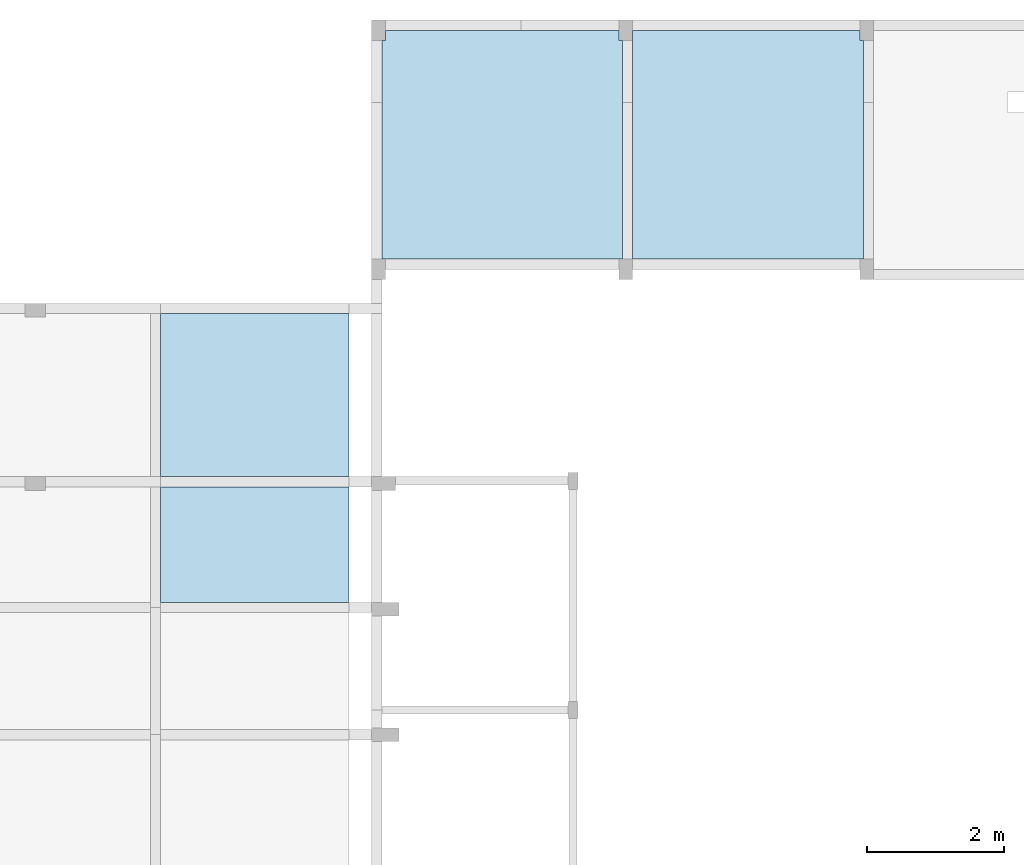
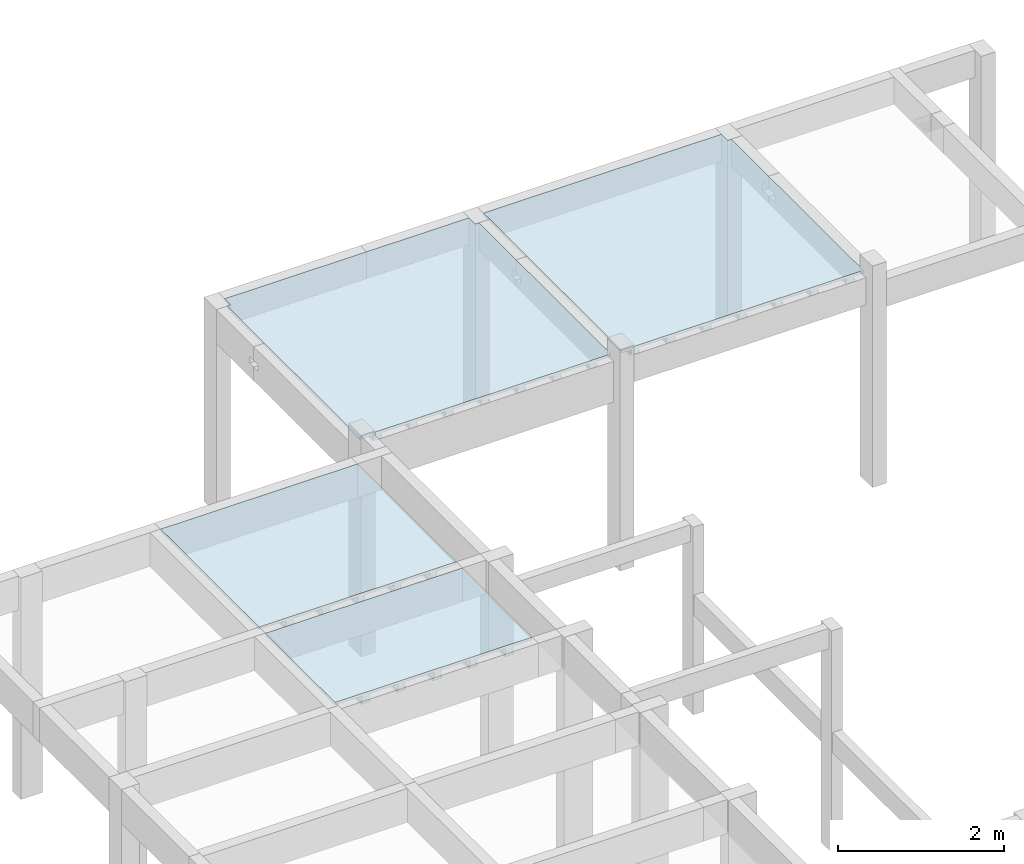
# One storey, part 5 of 6: 4 slabs.
"""IFC4 building model written with IfcOpenShell, lengths in centimetres."""

from ifc_helpers import new_model, si_unit, derived_unit, frame, origin_with_axes, place, context, project, spatial, polyline, outline, extrude, faceted_brep, material, element, save


model = new_model("IFC4")

# Units and contexts
model_context = context("Model", 3, precision=1e-05, world=origin_with_axes(), identifier="Body")
ifc_project = project(units=[si_unit("LENGTHUNIT", "METRE", prefix="CENTI"), si_unit("VOLUMEUNIT", "CUBIC_METRE"), si_unit("AREAUNIT", "SQUARE_METRE"), si_unit("POWERUNIT", "WATT"), si_unit("LUMINOUSFLUXUNIT", "LUMEN"), si_unit("ELECTRICCURRENTUNIT", "AMPERE"), si_unit("PRESSUREUNIT", "PASCAL", prefix="KILO"), si_unit("MASSUNIT", "GRAM", prefix="KILO"), si_unit("PLANEANGLEUNIT", "RADIAN"), derived_unit("VOLUMETRICFLOWRATEUNIT", [(si_unit("LENGTHUNIT", "METRE"), 3), (si_unit("TIMEUNIT", "SECOND"), -1)])], contexts=[model_context])

# Site, building, storey
site_placement = place(None, origin_with_axes())
site = spatial("IfcSite", under=ifc_project, at=site_placement)
building_placement = place(site_placement, frame((0.0, 0.0, -295.0)))
building = spatial("IfcBuilding", under=site, at=building_placement)
placement_1 = place(building_placement, origin_with_axes())
placement_2 = place(placement_1, frame((0.0, 0.0, 101.0), z_axis=(0.0, 0.0, 1.0), x_axis=(1.0, 0.0, 0.0)))
placement_3 = place(placement_2, frame((0.0, 0.0, 204.0), z_axis=(0.0, 0.0, 1.0), x_axis=(1.0, 0.0, 0.0)))
placement_4 = place(placement_3, frame((0.0, 0.0, 292.0), z_axis=(0.0, 0.0, 1.0), x_axis=(1.0, 0.0, 0.0)))
placement_5 = place(placement_4, frame((0.0, 0.0, 302.0), z_axis=(0.0, 0.0, 1.0), x_axis=(1.0, 0.0, 0.0)))
storey_placement = place(placement_5, frame((0.0, 0.0, 326.0), z_axis=(0.0, 0.0, 1.0), x_axis=(1.0, 0.0, 0.0)))
storey = spatial("IfcBuildingStorey", under=building, at=storey_placement, Name="COB CX DAGUA", CompositionType="ELEMENT", Elevation=930.0)

# Slabs
ifc_material = material(Name="Concreto")
slab_1_placement = place(storey_placement, frame((1364.15, -5252.9695, -26.0), z_axis=(0.0, 0.0, 1.0), x_axis=(1.0, 0.0, 0.0)))
element("IfcSlab", 1, at=slab_1_placement, inside=storey, material=ifc_material, Name="L301", PredefinedType="FLOOR", context=model_context, shape_type="SolidModel", body=[
    extrude(outline(polyline([(175.249, -166.719), (175.25, 151.86), (170.25, 151.86), (170.25, 166.72), (-170.249, 166.72), (-170.249, 151.86), (-175.249, 151.859), (-175.25, -166.719), (175.249, -166.719), (175.249, -166.719)])), frame((0.0, -0.0005, -4.0), z_axis=(0.0, 0.0, 1.0), x_axis=(1.0, 0.0, 0.0)), (0.0, 0.0, 1.0), 4.0),
    faceted_brep([(-5.0, -166.7195, -12.0), (-5.0, 166.7195, -12.0), (5.0, 166.7195, -12.0), (5.0, -166.7195, -12.0), (5.0, -166.7195, -4.0), (5.0, 166.7195, -4.0), (-5.0, 166.7195, -4.0), (-5.0, -166.7195, -4.0)], [[[0, 1, 2, 3]], [[4, 5, 6, 7]], [[4, 3, 5]], [[3, 2, 5]], [[5, 2, 6]], [[2, 1, 6]], [[6, 1, 7]], [[1, 0, 7]], [[7, 0, 4]], [[0, 3, 4]]]),
    faceted_brep([(-6.5, -166.7195, -12.0), (-6.5, 166.7195, -12.0), (-5.0, 166.7195, -12.0), (-5.0, -166.7195, -12.0), (-5.0, -166.7195, -9.0), (-5.0, 166.7195, -9.0), (-6.5, 166.7195, -9.0), (-6.5, -166.7195, -9.0)], [[[0, 1, 2, 3]], [[4, 5, 6, 7]], [[4, 3, 5]], [[3, 2, 5]], [[5, 2, 6]], [[2, 1, 6]], [[6, 1, 7]], [[1, 0, 7]], [[7, 0, 4]], [[0, 3, 4]]]),
    faceted_brep([(5.0, -166.7195, -12.0), (5.0, 166.7195, -12.0), (6.5, 166.7195, -12.0), (6.5, -166.7195, -12.0), (6.5, -166.7195, -9.0), (6.5, 166.7195, -9.0), (5.0, 166.7195, -9.0), (5.0, -166.7195, -9.0)], [[[0, 1, 2, 3]], [[4, 5, 6, 7]], [[4, 3, 5]], [[3, 2, 5]], [[5, 2, 6]], [[2, 1, 6]], [[6, 1, 7]], [[1, 0, 7]], [[7, 0, 4]], [[0, 3, 4]]]),
    faceted_brep([(-55.0, -166.7195, -12.0), (-55.0, 166.7195, -12.0), (-45.0, 166.7195, -12.0), (-45.0, -166.7195, -12.0), (-45.0, -166.7195, -4.0), (-45.0, 166.7195, -4.0), (-55.0, 166.7195, -4.0), (-55.0, -166.7195, -4.0)], [[[0, 1, 2, 3]], [[4, 5, 6, 7]], [[4, 3, 5]], [[3, 2, 5]], [[5, 2, 6]], [[2, 1, 6]], [[6, 1, 7]], [[1, 0, 7]], [[7, 0, 4]], [[0, 3, 4]]]),
    faceted_brep([(-56.5, -166.7195, -12.0), (-56.5, 166.7195, -12.0), (-55.0, 166.7195, -12.0), (-55.0, -166.7195, -12.0), (-55.0, -166.7195, -9.0), (-55.0, 166.7195, -9.0), (-56.5, 166.7195, -9.0), (-56.5, -166.7195, -9.0)], [[[0, 1, 2, 3]], [[4, 5, 6, 7]], [[4, 3, 5]], [[3, 2, 5]], [[5, 2, 6]], [[2, 1, 6]], [[6, 1, 7]], [[1, 0, 7]], [[7, 0, 4]], [[0, 3, 4]]]),
    faceted_brep([(-45.0, -166.7195, -12.0), (-45.0, 166.7195, -12.0), (-43.5, 166.7195, -12.0), (-43.5, -166.7195, -12.0), (-43.5, -166.7195, -9.0), (-43.5, 166.7195, -9.0), (-45.0, 166.7195, -9.0), (-45.0, -166.7195, -9.0)], [[[0, 1, 2, 3]], [[4, 5, 6, 7]], [[4, 3, 5]], [[3, 2, 5]], [[5, 2, 6]], [[2, 1, 6]], [[6, 1, 7]], [[1, 0, 7]], [[7, 0, 4]], [[0, 3, 4]]]),
    faceted_brep([(-105.0, -166.7195, -12.0), (-105.0, 166.7195, -12.0), (-95.0, 166.7195, -12.0), (-95.0, -166.7195, -12.0), (-95.0, -166.7195, -4.0), (-95.0, 166.7195, -4.0), (-105.0, 166.7195, -4.0), (-105.0, -166.7195, -4.0)], [[[0, 1, 2, 3]], [[4, 5, 6, 7]], [[4, 3, 5]], [[3, 2, 5]], [[5, 2, 6]], [[2, 1, 6]], [[6, 1, 7]], [[1, 0, 7]], [[7, 0, 4]], [[0, 3, 4]]]),
    faceted_brep([(-106.5, -166.7195, -12.0), (-106.5, 166.7195, -12.0), (-105.0, 166.7195, -12.0), (-105.0, -166.7195, -12.0), (-105.0, -166.7195, -9.0), (-105.0, 166.7195, -9.0), (-106.5, 166.7195, -9.0), (-106.5, -166.7195, -9.0)], [[[0, 1, 2, 3]], [[4, 5, 6, 7]], [[4, 3, 5]], [[3, 2, 5]], [[5, 2, 6]], [[2, 1, 6]], [[6, 1, 7]], [[1, 0, 7]], [[7, 0, 4]], [[0, 3, 4]]]),
    faceted_brep([(-95.0, -166.7195, -12.0), (-95.0, 166.7195, -12.0), (-93.5, 166.7195, -12.0), (-93.5, -166.7195, -12.0), (-93.5, -166.7195, -9.0), (-93.5, 166.7195, -9.0), (-95.0, 166.7195, -9.0), (-95.0, -166.7195, -9.0)], [[[0, 1, 2, 3]], [[4, 5, 6, 7]], [[4, 3, 5]], [[3, 2, 5]], [[5, 2, 6]], [[2, 1, 6]], [[6, 1, 7]], [[1, 0, 7]], [[7, 0, 4]], [[0, 3, 4]]]),
    faceted_brep([(-155.0, -166.7195, -12.0), (-155.0, 166.7195, -12.0), (-145.0, 166.7195, -12.0), (-145.0, -166.7195, -12.0), (-145.0, -166.7195, -4.0), (-145.0, 166.7195, -4.0), (-155.0, 166.7195, -4.0), (-155.0, -166.7195, -4.0)], [[[0, 1, 2, 3]], [[4, 5, 6, 7]], [[4, 3, 5]], [[3, 2, 5]], [[5, 2, 6]], [[2, 1, 6]], [[6, 1, 7]], [[1, 0, 7]], [[7, 0, 4]], [[0, 3, 4]]]),
    faceted_brep([(-156.5, -166.7195, -12.0), (-156.5, 166.7195, -12.0), (-155.0, 166.7195, -12.0), (-155.0, -166.7195, -12.0), (-155.0, -166.7195, -9.0), (-155.0, 166.7195, -9.0), (-156.5, 166.7195, -9.0), (-156.5, -166.7195, -9.0)], [[[0, 1, 2, 3]], [[4, 5, 6, 7]], [[4, 3, 5]], [[3, 2, 5]], [[5, 2, 6]], [[2, 1, 6]], [[6, 1, 7]], [[1, 0, 7]], [[7, 0, 4]], [[0, 3, 4]]]),
    faceted_brep([(-145.0, -166.7195, -12.0), (-145.0, 166.7195, -12.0), (-143.5, 166.7195, -12.0), (-143.5, -166.7195, -12.0), (-143.5, -166.7195, -9.0), (-143.5, 166.7195, -9.0), (-145.0, 166.7195, -9.0), (-145.0, -166.7195, -9.0)], [[[0, 1, 2, 3]], [[4, 5, 6, 7]], [[4, 3, 5]], [[3, 2, 5]], [[5, 2, 6]], [[2, 1, 6]], [[6, 1, 7]], [[1, 0, 7]], [[7, 0, 4]], [[0, 3, 4]]]),
    faceted_brep([(45.0, -166.7195, -12.0), (45.0, 166.7195, -12.0), (55.0, 166.7195, -12.0), (55.0, -166.7195, -12.0), (55.0, -166.7195, -4.0), (55.0, 166.7195, -4.0), (45.0, 166.7195, -4.0), (45.0, -166.7195, -4.0)], [[[0, 1, 2, 3]], [[4, 5, 6, 7]], [[4, 3, 5]], [[3, 2, 5]], [[5, 2, 6]], [[2, 1, 6]], [[6, 1, 7]], [[1, 0, 7]], [[7, 0, 4]], [[0, 3, 4]]]),
    faceted_brep([(43.5, -166.7195, -12.0), (43.5, 166.7195, -12.0), (45.0, 166.7195, -12.0), (45.0, -166.7195, -12.0), (45.0, -166.7195, -9.0), (45.0, 166.7195, -9.0), (43.5, 166.7195, -9.0), (43.5, -166.7195, -9.0)], [[[0, 1, 2, 3]], [[4, 5, 6, 7]], [[4, 3, 5]], [[3, 2, 5]], [[5, 2, 6]], [[2, 1, 6]], [[6, 1, 7]], [[1, 0, 7]], [[7, 0, 4]], [[0, 3, 4]]]),
    faceted_brep([(55.0, -166.7195, -12.0), (55.0, 166.7195, -12.0), (56.5, 166.7195, -12.0), (56.5, -166.7195, -12.0), (56.5, -166.7195, -9.0), (56.5, 166.7195, -9.0), (55.0, 166.7195, -9.0), (55.0, -166.7195, -9.0)], [[[0, 1, 2, 3]], [[4, 5, 6, 7]], [[4, 3, 5]], [[3, 2, 5]], [[5, 2, 6]], [[2, 1, 6]], [[6, 1, 7]], [[1, 0, 7]], [[7, 0, 4]], [[0, 3, 4]]]),
    faceted_brep([(95.0, -166.7195, -12.0), (95.0, 166.7195, -12.0), (105.0, 166.7195, -12.0), (105.0, -166.7195, -12.0), (105.0, -166.7195, -4.0), (105.0, 166.7195, -4.0), (95.0, 166.7195, -4.0), (95.0, -166.7195, -4.0)], [[[0, 1, 2, 3]], [[4, 5, 6, 7]], [[4, 3, 5]], [[3, 2, 5]], [[5, 2, 6]], [[2, 1, 6]], [[6, 1, 7]], [[1, 0, 7]], [[7, 0, 4]], [[0, 3, 4]]]),
    faceted_brep([(93.5, -166.7195, -12.0), (93.5, 166.7195, -12.0), (95.0, 166.7195, -12.0), (95.0, -166.7195, -12.0), (95.0, -166.7195, -9.0), (95.0, 166.7195, -9.0), (93.5, 166.7195, -9.0), (93.5, -166.7195, -9.0)], [[[0, 1, 2, 3]], [[4, 5, 6, 7]], [[4, 3, 5]], [[3, 2, 5]], [[5, 2, 6]], [[2, 1, 6]], [[6, 1, 7]], [[1, 0, 7]], [[7, 0, 4]], [[0, 3, 4]]]),
    faceted_brep([(105.0, -166.7195, -12.0), (105.0, 166.7195, -12.0), (106.5, 166.7195, -12.0), (106.5, -166.7195, -12.0), (106.5, -166.7195, -9.0), (106.5, 166.7195, -9.0), (105.0, 166.7195, -9.0), (105.0, -166.7195, -9.0)], [[[0, 1, 2, 3]], [[4, 5, 6, 7]], [[4, 3, 5]], [[3, 2, 5]], [[5, 2, 6]], [[2, 1, 6]], [[6, 1, 7]], [[1, 0, 7]], [[7, 0, 4]], [[0, 3, 4]]]),
    faceted_brep([(145.0, -166.7195, -12.0), (145.0, 166.7195, -12.0), (155.0, 166.7195, -12.0), (155.0, -166.7195, -12.0), (155.0, -166.7195, -4.0), (155.0, 166.7195, -4.0), (145.0, 166.7195, -4.0), (145.0, -166.7195, -4.0)], [[[0, 1, 2, 3]], [[4, 5, 6, 7]], [[4, 3, 5]], [[3, 2, 5]], [[5, 2, 6]], [[2, 1, 6]], [[6, 1, 7]], [[1, 0, 7]], [[7, 0, 4]], [[0, 3, 4]]]),
    faceted_brep([(143.5, -166.7195, -12.0), (143.5, 166.7195, -12.0), (145.0, 166.7195, -12.0), (145.0, -166.7195, -12.0), (145.0, -166.7195, -9.0), (145.0, 166.7195, -9.0), (143.5, 166.7195, -9.0), (143.5, -166.7195, -9.0)], [[[0, 1, 2, 3]], [[4, 5, 6, 7]], [[4, 3, 5]], [[3, 2, 5]], [[5, 2, 6]], [[2, 1, 6]], [[6, 1, 7]], [[1, 0, 7]], [[7, 0, 4]], [[0, 3, 4]]]),
    faceted_brep([(155.0, -166.7195, -12.0), (155.0, 166.7195, -12.0), (156.5, 166.7195, -12.0), (156.5, -166.7195, -12.0), (156.5, -166.7195, -9.0), (156.5, 166.7195, -9.0), (155.0, 166.7195, -9.0), (155.0, -166.7195, -9.0)], [[[0, 1, 2, 3]], [[4, 5, 6, 7]], [[4, 3, 5]], [[3, 2, 5]], [[5, 2, 6]], [[2, 1, 6]], [[6, 1, 7]], [[1, 0, 7]], [[7, 0, 4]], [[0, 3, 4]]]),
])
slab_2_placement = place(storey_placement, frame((1722.625, -5252.9695, -26.0), z_axis=(0.0, 0.0, 1.0), x_axis=(1.0, 0.0, 0.0)))
element("IfcSlab", 2, at=slab_2_placement, inside=storey, material=ifc_material, Name="L302", PredefinedType="FLOOR", context=model_context, shape_type="SolidModel", body=[
    extrude(outline(polyline([(168.224, -166.719), (168.225, 151.86), (163.224, 151.86), (163.225, 166.719), (-168.225, 166.72), (-168.224, -166.719), (168.224, -166.719), (168.224, -166.719)])), frame((0.0, -0.0005, -4.0), z_axis=(0.0, 0.0, 1.0), x_axis=(1.0, 0.0, 0.0)), (0.0, 0.0, 1.0), 4.0),
    faceted_brep([(-5.0, -166.7195, -12.0), (-5.0, 166.719, -12.0), (5.0, 166.719, -12.0), (5.0, -166.7195, -12.0), (5.0, -166.7195, -4.0), (5.0, 166.719, -4.0), (-5.0, 166.719, -4.0), (-5.0, -166.7195, -4.0)], [[[0, 1, 2, 3]], [[4, 5, 6, 7]], [[4, 3, 5]], [[3, 2, 5]], [[5, 2, 6]], [[2, 1, 6]], [[6, 1, 7]], [[1, 0, 7]], [[7, 0, 4]], [[0, 3, 4]]]),
    faceted_brep([(-6.5, -166.7195, -12.0), (-6.5, 166.719, -12.0), (-5.0, 166.719, -12.0), (-5.0, -166.7195, -12.0), (-5.0, -166.7195, -9.0), (-5.0, 166.719, -9.0), (-6.5, 166.719, -9.0), (-6.5, -166.7195, -9.0)], [[[0, 1, 2, 3]], [[4, 5, 6, 7]], [[4, 3, 5]], [[3, 2, 5]], [[5, 2, 6]], [[2, 1, 6]], [[6, 1, 7]], [[1, 0, 7]], [[7, 0, 4]], [[0, 3, 4]]]),
    faceted_brep([(5.0, -166.7195, -12.0), (5.0, 166.719, -12.0), (6.5, 166.719, -12.0), (6.5, -166.7195, -12.0), (6.5, -166.7195, -9.0), (6.5, 166.719, -9.0), (5.0, 166.719, -9.0), (5.0, -166.7195, -9.0)], [[[0, 1, 2, 3]], [[4, 5, 6, 7]], [[4, 3, 5]], [[3, 2, 5]], [[5, 2, 6]], [[2, 1, 6]], [[6, 1, 7]], [[1, 0, 7]], [[7, 0, 4]], [[0, 3, 4]]]),
    faceted_brep([(-55.0, -166.7195, -12.0), (-55.0, 166.719, -12.0), (-45.0, 166.719, -12.0), (-45.0, -166.7195, -12.0), (-45.0, -166.7195, -4.0), (-45.0, 166.719, -4.0), (-55.0, 166.719, -4.0), (-55.0, -166.7195, -4.0)], [[[0, 1, 2, 3]], [[4, 5, 6, 7]], [[4, 3, 5]], [[3, 2, 5]], [[5, 2, 6]], [[2, 1, 6]], [[6, 1, 7]], [[1, 0, 7]], [[7, 0, 4]], [[0, 3, 4]]]),
    faceted_brep([(-56.5, -166.7195, -12.0), (-56.5, 166.719, -12.0), (-55.0, 166.719, -12.0), (-55.0, -166.7195, -12.0), (-55.0, -166.7195, -9.0), (-55.0, 166.719, -9.0), (-56.5, 166.719, -9.0), (-56.5, -166.7195, -9.0)], [[[0, 1, 2, 3]], [[4, 5, 6, 7]], [[4, 3, 5]], [[3, 2, 5]], [[5, 2, 6]], [[2, 1, 6]], [[6, 1, 7]], [[1, 0, 7]], [[7, 0, 4]], [[0, 3, 4]]]),
    faceted_brep([(-45.0, -166.7195, -12.0), (-45.0, 166.719, -12.0), (-43.5, 166.719, -12.0), (-43.5, -166.7195, -12.0), (-43.5, -166.7195, -9.0), (-43.5, 166.719, -9.0), (-45.0, 166.719, -9.0), (-45.0, -166.7195, -9.0)], [[[0, 1, 2, 3]], [[4, 5, 6, 7]], [[4, 3, 5]], [[3, 2, 5]], [[5, 2, 6]], [[2, 1, 6]], [[6, 1, 7]], [[1, 0, 7]], [[7, 0, 4]], [[0, 3, 4]]]),
    faceted_brep([(-105.0, -166.7195, -12.0), (-105.0, 166.719, -12.0), (-95.0, 166.719, -12.0), (-95.0, -166.7195, -12.0), (-95.0, -166.7195, -4.0), (-95.0, 166.719, -4.0), (-105.0, 166.719, -4.0), (-105.0, -166.7195, -4.0)], [[[0, 1, 2, 3]], [[4, 5, 6, 7]], [[4, 3, 5]], [[3, 2, 5]], [[5, 2, 6]], [[2, 1, 6]], [[6, 1, 7]], [[1, 0, 7]], [[7, 0, 4]], [[0, 3, 4]]]),
    faceted_brep([(-106.5, -166.7195, -12.0), (-106.5, 166.719, -12.0), (-105.0, 166.719, -12.0), (-105.0, -166.7195, -12.0), (-105.0, -166.7195, -9.0), (-105.0, 166.719, -9.0), (-106.5, 166.719, -9.0), (-106.5, -166.7195, -9.0)], [[[0, 1, 2, 3]], [[4, 5, 6, 7]], [[4, 3, 5]], [[3, 2, 5]], [[5, 2, 6]], [[2, 1, 6]], [[6, 1, 7]], [[1, 0, 7]], [[7, 0, 4]], [[0, 3, 4]]]),
    faceted_brep([(-95.0, -166.7195, -12.0), (-95.0, 166.719, -12.0), (-93.5, 166.719, -12.0), (-93.5, -166.7195, -12.0), (-93.5, -166.7195, -9.0), (-93.5, 166.719, -9.0), (-95.0, 166.719, -9.0), (-95.0, -166.7195, -9.0)], [[[0, 1, 2, 3]], [[4, 5, 6, 7]], [[4, 3, 5]], [[3, 2, 5]], [[5, 2, 6]], [[2, 1, 6]], [[6, 1, 7]], [[1, 0, 7]], [[7, 0, 4]], [[0, 3, 4]]]),
    faceted_brep([(-155.0, -166.7195, -12.0), (-155.0, 166.719, -12.0), (-145.0, 166.719, -12.0), (-145.0, -166.7195, -12.0), (-145.0, -166.7195, -4.0), (-145.0, 166.719, -4.0), (-155.0, 166.719, -4.0), (-155.0, -166.7195, -4.0)], [[[0, 1, 2, 3]], [[4, 5, 6, 7]], [[4, 3, 5]], [[3, 2, 5]], [[5, 2, 6]], [[2, 1, 6]], [[6, 1, 7]], [[1, 0, 7]], [[7, 0, 4]], [[0, 3, 4]]]),
    faceted_brep([(-156.5, -166.7195, -12.0), (-156.5, 166.719, -12.0), (-155.0, 166.719, -12.0), (-155.0, -166.7195, -12.0), (-155.0, -166.7195, -9.0), (-155.0, 166.719, -9.0), (-156.5, 166.719, -9.0), (-156.5, -166.7195, -9.0)], [[[0, 1, 2, 3]], [[4, 5, 6, 7]], [[4, 3, 5]], [[3, 2, 5]], [[5, 2, 6]], [[2, 1, 6]], [[6, 1, 7]], [[1, 0, 7]], [[7, 0, 4]], [[0, 3, 4]]]),
    faceted_brep([(-145.0, -166.7195, -12.0), (-145.0, 166.719, -12.0), (-143.5, 166.719, -12.0), (-143.5, -166.7195, -12.0), (-143.5, -166.7195, -9.0), (-143.5, 166.719, -9.0), (-145.0, 166.719, -9.0), (-145.0, -166.7195, -9.0)], [[[0, 1, 2, 3]], [[4, 5, 6, 7]], [[4, 3, 5]], [[3, 2, 5]], [[5, 2, 6]], [[2, 1, 6]], [[6, 1, 7]], [[1, 0, 7]], [[7, 0, 4]], [[0, 3, 4]]]),
    faceted_brep([(45.0, -166.7195, -12.0), (45.0, 166.719, -12.0), (55.0, 166.719, -12.0), (55.0, -166.7195, -12.0), (55.0, -166.7195, -4.0), (55.0, 166.719, -4.0), (45.0, 166.719, -4.0), (45.0, -166.7195, -4.0)], [[[0, 1, 2, 3]], [[4, 5, 6, 7]], [[4, 3, 5]], [[3, 2, 5]], [[5, 2, 6]], [[2, 1, 6]], [[6, 1, 7]], [[1, 0, 7]], [[7, 0, 4]], [[0, 3, 4]]]),
    faceted_brep([(43.5, -166.7195, -12.0), (43.5, 166.719, -12.0), (45.0, 166.719, -12.0), (45.0, -166.7195, -12.0), (45.0, -166.7195, -9.0), (45.0, 166.719, -9.0), (43.5, 166.719, -9.0), (43.5, -166.7195, -9.0)], [[[0, 1, 2, 3]], [[4, 5, 6, 7]], [[4, 3, 5]], [[3, 2, 5]], [[5, 2, 6]], [[2, 1, 6]], [[6, 1, 7]], [[1, 0, 7]], [[7, 0, 4]], [[0, 3, 4]]]),
    faceted_brep([(55.0, -166.7195, -12.0), (55.0, 166.719, -12.0), (56.5, 166.719, -12.0), (56.5, -166.7195, -12.0), (56.5, -166.7195, -9.0), (56.5, 166.719, -9.0), (55.0, 166.719, -9.0), (55.0, -166.7195, -9.0)], [[[0, 1, 2, 3]], [[4, 5, 6, 7]], [[4, 3, 5]], [[3, 2, 5]], [[5, 2, 6]], [[2, 1, 6]], [[6, 1, 7]], [[1, 0, 7]], [[7, 0, 4]], [[0, 3, 4]]]),
    faceted_brep([(95.0, -166.7195, -12.0), (95.0, 166.719, -12.0), (105.0, 166.719, -12.0), (105.0, -166.7195, -12.0), (105.0, -166.7195, -4.0), (105.0, 166.719, -4.0), (95.0, 166.719, -4.0), (95.0, -166.7195, -4.0)], [[[0, 1, 2, 3]], [[4, 5, 6, 7]], [[4, 3, 5]], [[3, 2, 5]], [[5, 2, 6]], [[2, 1, 6]], [[6, 1, 7]], [[1, 0, 7]], [[7, 0, 4]], [[0, 3, 4]]]),
    faceted_brep([(93.5, -166.7195, -12.0), (93.5, 166.719, -12.0), (95.0, 166.719, -12.0), (95.0, -166.7195, -12.0), (95.0, -166.7195, -9.0), (95.0, 166.719, -9.0), (93.5, 166.719, -9.0), (93.5, -166.7195, -9.0)], [[[0, 1, 2, 3]], [[4, 5, 6, 7]], [[4, 3, 5]], [[3, 2, 5]], [[5, 2, 6]], [[2, 1, 6]], [[6, 1, 7]], [[1, 0, 7]], [[7, 0, 4]], [[0, 3, 4]]]),
    faceted_brep([(105.0, -166.7195, -12.0), (105.0, 166.719, -12.0), (106.5, 166.719, -12.0), (106.5, -166.7195, -12.0), (106.5, -166.7195, -9.0), (106.5, 166.719, -9.0), (105.0, 166.719, -9.0), (105.0, -166.7195, -9.0)], [[[0, 1, 2, 3]], [[4, 5, 6, 7]], [[4, 3, 5]], [[3, 2, 5]], [[5, 2, 6]], [[2, 1, 6]], [[6, 1, 7]], [[1, 0, 7]], [[7, 0, 4]], [[0, 3, 4]]]),
    faceted_brep([(145.0, -166.7195, -12.0), (145.0, 166.719, -12.0), (155.0, 166.719, -12.0), (155.0, -166.7195, -12.0), (155.0, -166.7195, -4.0), (155.0, 166.719, -4.0), (145.0, 166.719, -4.0), (145.0, -166.7195, -4.0)], [[[0, 1, 2, 3]], [[4, 5, 6, 7]], [[4, 3, 5]], [[3, 2, 5]], [[5, 2, 6]], [[2, 1, 6]], [[6, 1, 7]], [[1, 0, 7]], [[7, 0, 4]], [[0, 3, 4]]]),
    faceted_brep([(143.5, -166.7195, -12.0), (143.5, 166.719, -12.0), (145.0, 166.719, -12.0), (145.0, -166.7195, -12.0), (145.0, -166.7195, -9.0), (145.0, 166.719, -9.0), (143.5, 166.719, -9.0), (143.5, -166.7195, -9.0)], [[[0, 1, 2, 3]], [[4, 5, 6, 7]], [[4, 3, 5]], [[3, 2, 5]], [[5, 2, 6]], [[2, 1, 6]], [[6, 1, 7]], [[1, 0, 7]], [[7, 0, 4]], [[0, 3, 4]]]),
    faceted_brep([(155.0, -166.7195, -12.0), (155.0, 166.719, -12.0), (156.5, 166.719, -12.0), (156.5, -166.7195, -12.0), (156.5, -166.7195, -9.0), (156.5, 166.719, -9.0), (155.0, 166.719, -9.0), (155.0, -166.7195, -9.0)], [[[0, 1, 2, 3]], [[4, 5, 6, 7]], [[4, 3, 5]], [[3, 2, 5]], [[5, 2, 6]], [[2, 1, 6]], [[6, 1, 7]], [[1, 0, 7]], [[7, 0, 4]], [[0, 3, 4]]]),
])
slab_3_placement = place(storey_placement, frame((1003.65, -5618.0, 0.0), z_axis=(0.0, 0.0, 1.0), x_axis=(1.0, 0.0, 0.0)))
element("IfcSlab", 3, at=slab_3_placement, inside=storey, material=ifc_material, Name="L306", PredefinedType="FLOOR", context=model_context, shape_type="SolidModel", body=[
    extrude(outline(polyline([(137.25, 118.84), (-137.249, 118.84), (-137.25, -118.84), (137.25, -118.84), (137.25, 118.84), (137.25, 118.84)])), frame((0.0, 0.0, -4.0), z_axis=(0.0, 0.0, 1.0), x_axis=(1.0, 0.0, 0.0)), (0.0, 0.0, 1.0), 4.0),
    faceted_brep([(-49.585, -118.84, -16.0), (-49.585, 118.84, -16.0), (-39.585, 118.84, -16.0), (-39.585, -118.84, -16.0), (-39.585, -118.84, -4.0), (-39.585, 118.84, -4.0), (-49.585, 118.84, -4.0), (-49.585, -118.84, -4.0)], [[[0, 1, 2, 3]], [[4, 5, 6, 7]], [[4, 3, 5]], [[3, 2, 5]], [[5, 2, 6]], [[2, 1, 6]], [[6, 1, 7]], [[1, 0, 7]], [[7, 0, 4]], [[0, 3, 4]]]),
    faceted_brep([(-51.085, -118.84, -16.0), (-51.085, 118.84, -16.0), (-49.585, 118.84, -16.0), (-49.585, -118.84, -16.0), (-49.585, -118.84, -13.0), (-49.585, 118.84, -13.0), (-51.085, 118.84, -13.0), (-51.085, -118.84, -13.0)], [[[0, 1, 2, 3]], [[4, 5, 6, 7]], [[4, 3, 5]], [[3, 2, 5]], [[5, 2, 6]], [[2, 1, 6]], [[6, 1, 7]], [[1, 0, 7]], [[7, 0, 4]], [[0, 3, 4]]]),
    faceted_brep([(-39.585, -118.84, -16.0), (-39.585, 118.84, -16.0), (-38.085, 118.84, -16.0), (-38.085, -118.84, -16.0), (-38.085, -118.84, -13.0), (-38.085, 118.84, -13.0), (-39.585, 118.84, -13.0), (-39.585, -118.84, -13.0)], [[[0, 1, 2, 3]], [[4, 5, 6, 7]], [[4, 3, 5]], [[3, 2, 5]], [[5, 2, 6]], [[2, 1, 6]], [[6, 1, 7]], [[1, 0, 7]], [[7, 0, 4]], [[0, 3, 4]]]),
    faceted_brep([(-99.585, -118.84, -16.0), (-99.585, 118.84, -16.0), (-89.585, 118.84, -16.0), (-89.585, -118.84, -16.0), (-89.585, -118.84, -4.0), (-89.585, 118.84, -4.0), (-99.585, 118.84, -4.0), (-99.585, -118.84, -4.0)], [[[0, 1, 2, 3]], [[4, 5, 6, 7]], [[4, 3, 5]], [[3, 2, 5]], [[5, 2, 6]], [[2, 1, 6]], [[6, 1, 7]], [[1, 0, 7]], [[7, 0, 4]], [[0, 3, 4]]]),
    faceted_brep([(-101.085, -118.84, -16.0), (-101.085, 118.84, -16.0), (-99.585, 118.84, -16.0), (-99.585, -118.84, -16.0), (-99.585, -118.84, -13.0), (-99.585, 118.84, -13.0), (-101.085, 118.84, -13.0), (-101.085, -118.84, -13.0)], [[[0, 1, 2, 3]], [[4, 5, 6, 7]], [[4, 3, 5]], [[3, 2, 5]], [[5, 2, 6]], [[2, 1, 6]], [[6, 1, 7]], [[1, 0, 7]], [[7, 0, 4]], [[0, 3, 4]]]),
    faceted_brep([(-89.585, -118.84, -16.0), (-89.585, 118.84, -16.0), (-88.085, 118.84, -16.0), (-88.085, -118.84, -16.0), (-88.085, -118.84, -13.0), (-88.085, 118.84, -13.0), (-89.585, 118.84, -13.0), (-89.585, -118.84, -13.0)], [[[0, 1, 2, 3]], [[4, 5, 6, 7]], [[4, 3, 5]], [[3, 2, 5]], [[5, 2, 6]], [[2, 1, 6]], [[6, 1, 7]], [[1, 0, 7]], [[7, 0, 4]], [[0, 3, 4]]]),
    faceted_brep([(0.415, -118.84, -16.0), (0.415, 118.84, -16.0), (10.415, 118.84, -16.0), (10.415, -118.84, -16.0), (10.415, -118.84, -4.0), (10.415, 118.84, -4.0), (0.415, 118.84, -4.0), (0.415, -118.84, -4.0)], [[[0, 1, 2, 3]], [[4, 5, 6, 7]], [[4, 3, 5]], [[3, 2, 5]], [[5, 2, 6]], [[2, 1, 6]], [[6, 1, 7]], [[1, 0, 7]], [[7, 0, 4]], [[0, 3, 4]]]),
    faceted_brep([(-1.085, -118.84, -16.0), (-1.085, 118.84, -16.0), (0.415, 118.84, -16.0), (0.415, -118.84, -16.0), (0.415, -118.84, -13.0), (0.415, 118.84, -13.0), (-1.085, 118.84, -13.0), (-1.085, -118.84, -13.0)], [[[0, 1, 2, 3]], [[4, 5, 6, 7]], [[4, 3, 5]], [[3, 2, 5]], [[5, 2, 6]], [[2, 1, 6]], [[6, 1, 7]], [[1, 0, 7]], [[7, 0, 4]], [[0, 3, 4]]]),
    faceted_brep([(10.415, -118.84, -16.0), (10.415, 118.84, -16.0), (11.915, 118.84, -16.0), (11.915, -118.84, -16.0), (11.915, -118.84, -13.0), (11.915, 118.84, -13.0), (10.415, 118.84, -13.0), (10.415, -118.84, -13.0)], [[[0, 1, 2, 3]], [[4, 5, 6, 7]], [[4, 3, 5]], [[3, 2, 5]], [[5, 2, 6]], [[2, 1, 6]], [[6, 1, 7]], [[1, 0, 7]], [[7, 0, 4]], [[0, 3, 4]]]),
    faceted_brep([(50.415, -118.84, -16.0), (50.415, 118.84, -16.0), (60.415, 118.84, -16.0), (60.415, -118.84, -16.0), (60.415, -118.84, -4.0), (60.415, 118.84, -4.0), (50.415, 118.84, -4.0), (50.415, -118.84, -4.0)], [[[0, 1, 2, 3]], [[4, 5, 6, 7]], [[4, 3, 5]], [[3, 2, 5]], [[5, 2, 6]], [[2, 1, 6]], [[6, 1, 7]], [[1, 0, 7]], [[7, 0, 4]], [[0, 3, 4]]]),
    faceted_brep([(48.915, -118.84, -16.0), (48.915, 118.84, -16.0), (50.415, 118.84, -16.0), (50.415, -118.84, -16.0), (50.415, -118.84, -13.0), (50.415, 118.84, -13.0), (48.915, 118.84, -13.0), (48.915, -118.84, -13.0)], [[[0, 1, 2, 3]], [[4, 5, 6, 7]], [[4, 3, 5]], [[3, 2, 5]], [[5, 2, 6]], [[2, 1, 6]], [[6, 1, 7]], [[1, 0, 7]], [[7, 0, 4]], [[0, 3, 4]]]),
    faceted_brep([(60.415, -118.84, -16.0), (60.415, 118.84, -16.0), (61.915, 118.84, -16.0), (61.915, -118.84, -16.0), (61.915, -118.84, -13.0), (61.915, 118.84, -13.0), (60.415, 118.84, -13.0), (60.415, -118.84, -13.0)], [[[0, 1, 2, 3]], [[4, 5, 6, 7]], [[4, 3, 5]], [[3, 2, 5]], [[5, 2, 6]], [[2, 1, 6]], [[6, 1, 7]], [[1, 0, 7]], [[7, 0, 4]], [[0, 3, 4]]]),
    faceted_brep([(100.415, -118.84, -16.0), (100.415, 118.84, -16.0), (110.415, 118.84, -16.0), (110.415, -118.84, -16.0), (110.415, -118.84, -4.0), (110.415, 118.84, -4.0), (100.415, 118.84, -4.0), (100.415, -118.84, -4.0)], [[[0, 1, 2, 3]], [[4, 5, 6, 7]], [[4, 3, 5]], [[3, 2, 5]], [[5, 2, 6]], [[2, 1, 6]], [[6, 1, 7]], [[1, 0, 7]], [[7, 0, 4]], [[0, 3, 4]]]),
    faceted_brep([(98.915, -118.84, -16.0), (98.915, 118.84, -16.0), (100.415, 118.84, -16.0), (100.415, -118.84, -16.0), (100.415, -118.84, -13.0), (100.415, 118.84, -13.0), (98.915, 118.84, -13.0), (98.915, -118.84, -13.0)], [[[0, 1, 2, 3]], [[4, 5, 6, 7]], [[4, 3, 5]], [[3, 2, 5]], [[5, 2, 6]], [[2, 1, 6]], [[6, 1, 7]], [[1, 0, 7]], [[7, 0, 4]], [[0, 3, 4]]]),
    faceted_brep([(110.415, -118.84, -16.0), (110.415, 118.84, -16.0), (111.915, 118.84, -16.0), (111.915, -118.84, -16.0), (111.915, -118.84, -13.0), (111.915, 118.84, -13.0), (110.415, 118.84, -13.0), (110.415, -118.84, -13.0)], [[[0, 1, 2, 3]], [[4, 5, 6, 7]], [[4, 3, 5]], [[3, 2, 5]], [[5, 2, 6]], [[2, 1, 6]], [[6, 1, 7]], [[1, 0, 7]], [[7, 0, 4]], [[0, 3, 4]]]),
])
slab_4_placement = place(storey_placement, frame((1003.65, -5835.8455, 0.0), z_axis=(0.0, 0.0, 1.0), x_axis=(1.0, 0.0, 0.0)))
element("IfcSlab", 4, at=slab_4_placement, inside=storey, material=ifc_material, Name="L308", PredefinedType="FLOOR", context=model_context, shape_type="SolidModel", body=[
    extrude(outline(polyline([(137.25, 84.004), (-137.25, 84.004), (-137.249, -84.005), (137.25, -84.005), (137.25, 84.004), (137.25, 84.004)])), frame((0.0, 0.0005, -4.0), z_axis=(0.0, 0.0, 1.0), x_axis=(1.0, 0.0, 0.0)), (0.0, 0.0, 1.0), 4.0),
    faceted_brep([(-49.585, -84.0045, -16.0), (-49.585, 84.0045, -16.0), (-39.585, 84.0045, -16.0), (-39.585, -84.0045, -16.0), (-39.585, -84.0045, -4.0), (-39.585, 84.0045, -4.0), (-49.585, 84.0045, -4.0), (-49.585, -84.0045, -4.0)], [[[0, 1, 2, 3]], [[4, 5, 6, 7]], [[4, 3, 5]], [[3, 2, 5]], [[5, 2, 6]], [[2, 1, 6]], [[6, 1, 7]], [[1, 0, 7]], [[7, 0, 4]], [[0, 3, 4]]]),
    faceted_brep([(-51.085, -84.0045, -16.0), (-51.085, 84.0045, -16.0), (-49.585, 84.0045, -16.0), (-49.585, -84.0045, -16.0), (-49.585, -84.0045, -13.0), (-49.585, 84.0045, -13.0), (-51.085, 84.0045, -13.0), (-51.085, -84.0045, -13.0)], [[[0, 1, 2, 3]], [[4, 5, 6, 7]], [[4, 3, 5]], [[3, 2, 5]], [[5, 2, 6]], [[2, 1, 6]], [[6, 1, 7]], [[1, 0, 7]], [[7, 0, 4]], [[0, 3, 4]]]),
    faceted_brep([(-39.585, -84.0045, -16.0), (-39.585, 84.0045, -16.0), (-38.085, 84.0045, -16.0), (-38.085, -84.0045, -16.0), (-38.085, -84.0045, -13.0), (-38.085, 84.0045, -13.0), (-39.585, 84.0045, -13.0), (-39.585, -84.0045, -13.0)], [[[0, 1, 2, 3]], [[4, 5, 6, 7]], [[4, 3, 5]], [[3, 2, 5]], [[5, 2, 6]], [[2, 1, 6]], [[6, 1, 7]], [[1, 0, 7]], [[7, 0, 4]], [[0, 3, 4]]]),
    faceted_brep([(-99.585, -84.0045, -16.0), (-99.585, 84.0045, -16.0), (-89.585, 84.0045, -16.0), (-89.585, -84.0045, -16.0), (-89.585, -84.0045, -4.0), (-89.585, 84.0045, -4.0), (-99.585, 84.0045, -4.0), (-99.585, -84.0045, -4.0)], [[[0, 1, 2, 3]], [[4, 5, 6, 7]], [[4, 3, 5]], [[3, 2, 5]], [[5, 2, 6]], [[2, 1, 6]], [[6, 1, 7]], [[1, 0, 7]], [[7, 0, 4]], [[0, 3, 4]]]),
    faceted_brep([(-101.085, -84.0045, -16.0), (-101.085, 84.0045, -16.0), (-99.585, 84.0045, -16.0), (-99.585, -84.0045, -16.0), (-99.585, -84.0045, -13.0), (-99.585, 84.0045, -13.0), (-101.085, 84.0045, -13.0), (-101.085, -84.0045, -13.0)], [[[0, 1, 2, 3]], [[4, 5, 6, 7]], [[4, 3, 5]], [[3, 2, 5]], [[5, 2, 6]], [[2, 1, 6]], [[6, 1, 7]], [[1, 0, 7]], [[7, 0, 4]], [[0, 3, 4]]]),
    faceted_brep([(-89.585, -84.0045, -16.0), (-89.585, 84.0045, -16.0), (-88.085, 84.0045, -16.0), (-88.085, -84.0045, -16.0), (-88.085, -84.0045, -13.0), (-88.085, 84.0045, -13.0), (-89.585, 84.0045, -13.0), (-89.585, -84.0045, -13.0)], [[[0, 1, 2, 3]], [[4, 5, 6, 7]], [[4, 3, 5]], [[3, 2, 5]], [[5, 2, 6]], [[2, 1, 6]], [[6, 1, 7]], [[1, 0, 7]], [[7, 0, 4]], [[0, 3, 4]]]),
    faceted_brep([(0.415, -84.0045, -16.0), (0.415, 84.0045, -16.0), (10.415, 84.0045, -16.0), (10.415, -84.0045, -16.0), (10.415, -84.0045, -4.0), (10.415, 84.0045, -4.0), (0.415, 84.0045, -4.0), (0.415, -84.0045, -4.0)], [[[0, 1, 2, 3]], [[4, 5, 6, 7]], [[4, 3, 5]], [[3, 2, 5]], [[5, 2, 6]], [[2, 1, 6]], [[6, 1, 7]], [[1, 0, 7]], [[7, 0, 4]], [[0, 3, 4]]]),
    faceted_brep([(-1.085, -84.0045, -16.0), (-1.085, 84.0045, -16.0), (0.415, 84.0045, -16.0), (0.415, -84.0045, -16.0), (0.415, -84.0045, -13.0), (0.415, 84.0045, -13.0), (-1.085, 84.0045, -13.0), (-1.085, -84.0045, -13.0)], [[[0, 1, 2, 3]], [[4, 5, 6, 7]], [[4, 3, 5]], [[3, 2, 5]], [[5, 2, 6]], [[2, 1, 6]], [[6, 1, 7]], [[1, 0, 7]], [[7, 0, 4]], [[0, 3, 4]]]),
    faceted_brep([(10.415, -84.0045, -16.0), (10.415, 84.0045, -16.0), (11.915, 84.0045, -16.0), (11.915, -84.0045, -16.0), (11.915, -84.0045, -13.0), (11.915, 84.0045, -13.0), (10.415, 84.0045, -13.0), (10.415, -84.0045, -13.0)], [[[0, 1, 2, 3]], [[4, 5, 6, 7]], [[4, 3, 5]], [[3, 2, 5]], [[5, 2, 6]], [[2, 1, 6]], [[6, 1, 7]], [[1, 0, 7]], [[7, 0, 4]], [[0, 3, 4]]]),
    faceted_brep([(50.415, -84.0045, -16.0), (50.415, 84.0045, -16.0), (60.415, 84.0045, -16.0), (60.415, -84.0045, -16.0), (60.415, -84.0045, -4.0), (60.415, 84.0045, -4.0), (50.415, 84.0045, -4.0), (50.415, -84.0045, -4.0)], [[[0, 1, 2, 3]], [[4, 5, 6, 7]], [[4, 3, 5]], [[3, 2, 5]], [[5, 2, 6]], [[2, 1, 6]], [[6, 1, 7]], [[1, 0, 7]], [[7, 0, 4]], [[0, 3, 4]]]),
    faceted_brep([(48.915, -84.0045, -16.0), (48.915, 84.0045, -16.0), (50.415, 84.0045, -16.0), (50.415, -84.0045, -16.0), (50.415, -84.0045, -13.0), (50.415, 84.0045, -13.0), (48.915, 84.0045, -13.0), (48.915, -84.0045, -13.0)], [[[0, 1, 2, 3]], [[4, 5, 6, 7]], [[4, 3, 5]], [[3, 2, 5]], [[5, 2, 6]], [[2, 1, 6]], [[6, 1, 7]], [[1, 0, 7]], [[7, 0, 4]], [[0, 3, 4]]]),
    faceted_brep([(60.415, -84.0045, -16.0), (60.415, 84.0045, -16.0), (61.915, 84.0045, -16.0), (61.915, -84.0045, -16.0), (61.915, -84.0045, -13.0), (61.915, 84.0045, -13.0), (60.415, 84.0045, -13.0), (60.415, -84.0045, -13.0)], [[[0, 1, 2, 3]], [[4, 5, 6, 7]], [[4, 3, 5]], [[3, 2, 5]], [[5, 2, 6]], [[2, 1, 6]], [[6, 1, 7]], [[1, 0, 7]], [[7, 0, 4]], [[0, 3, 4]]]),
    faceted_brep([(100.415, -84.0045, -16.0), (100.415, 84.0045, -16.0), (110.415, 84.0045, -16.0), (110.415, -84.0045, -16.0), (110.415, -84.0045, -4.0), (110.415, 84.0045, -4.0), (100.415, 84.0045, -4.0), (100.415, -84.0045, -4.0)], [[[0, 1, 2, 3]], [[4, 5, 6, 7]], [[4, 3, 5]], [[3, 2, 5]], [[5, 2, 6]], [[2, 1, 6]], [[6, 1, 7]], [[1, 0, 7]], [[7, 0, 4]], [[0, 3, 4]]]),
    faceted_brep([(98.915, -84.0045, -16.0), (98.915, 84.0045, -16.0), (100.415, 84.0045, -16.0), (100.415, -84.0045, -16.0), (100.415, -84.0045, -13.0), (100.415, 84.0045, -13.0), (98.915, 84.0045, -13.0), (98.915, -84.0045, -13.0)], [[[0, 1, 2, 3]], [[4, 5, 6, 7]], [[4, 3, 5]], [[3, 2, 5]], [[5, 2, 6]], [[2, 1, 6]], [[6, 1, 7]], [[1, 0, 7]], [[7, 0, 4]], [[0, 3, 4]]]),
    faceted_brep([(110.415, -84.0045, -16.0), (110.415, 84.0045, -16.0), (111.915, 84.0045, -16.0), (111.915, -84.0045, -16.0), (111.915, -84.0045, -13.0), (111.915, 84.0045, -13.0), (110.415, 84.0045, -13.0), (110.415, -84.0045, -13.0)], [[[0, 1, 2, 3]], [[4, 5, 6, 7]], [[4, 3, 5]], [[3, 2, 5]], [[5, 2, 6]], [[2, 1, 6]], [[6, 1, 7]], [[1, 0, 7]], [[7, 0, 4]], [[0, 3, 4]]]),
])

save(model, "model.ifc")
